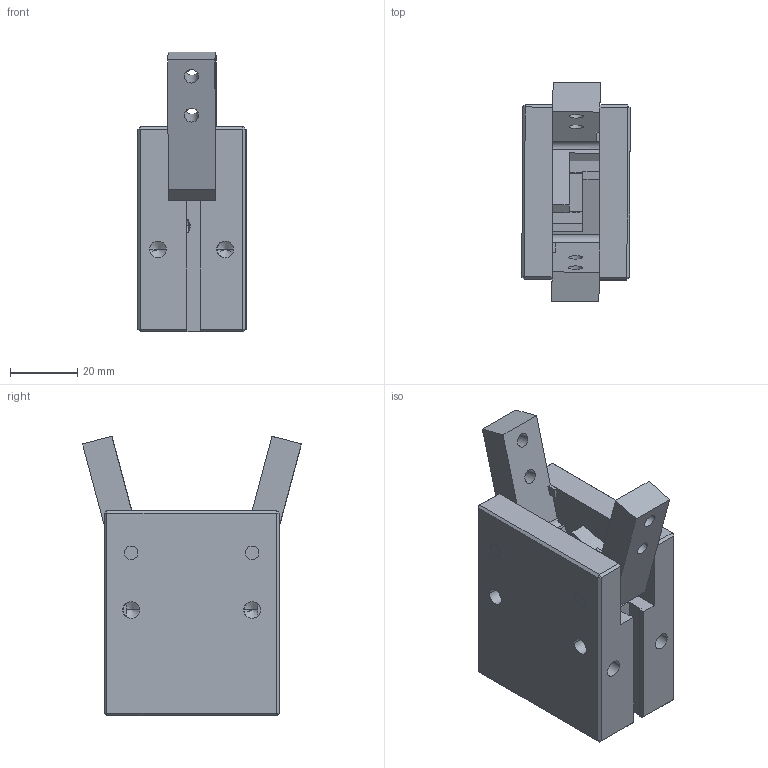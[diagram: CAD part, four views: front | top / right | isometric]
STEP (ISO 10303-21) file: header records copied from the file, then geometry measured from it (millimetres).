
FILE_DESCRIPTION (( 'STEP AP203' ), '1' );
FILE_NAME ('GDS.25-OPEN.STEP', '2011-10-20T11:51:59', ( 'Christophe Gaillard' ), ( 'SGA' ), 'SwSTEP 2.0', 'SolidWorks 2010', '' );
FILE_SCHEMA (( 'CONFIG_CONTROL_DESIGN' ));
Products named in the file (6): corps.GDS.25; mors.GDS.25; GDS.25-OPEN; Pièce29; Pièce7; Pièce10
Assembly tree (8 placements, depth 2):
  GDS.25-OPEN
    Pièce10  x2
    mors.GDS.25  x2
    Pièce29
    Pièce7  x2
    corps.GDS.25
Bounding box: 32.26 x 65.11 x 83.17 mm (x, y, z)
Volume: 93026.1 mm3; surface area: 27971 mm2
Topology: 8 solids, 8 shells, 587 faces, 1567 edges, 1024 vertices
Faces by surface type: plane 306, bspline 217, cylinder 48, cone 16
Entity records: 32773 total; most frequent: CARTESIAN_POINT 19578, ORIENTED_EDGE 2970, DIRECTION 1823, EDGE_CURVE 1485, VERTEX_POINT 980, LINE 961, VECTOR 961, EDGE_LOOP 621
